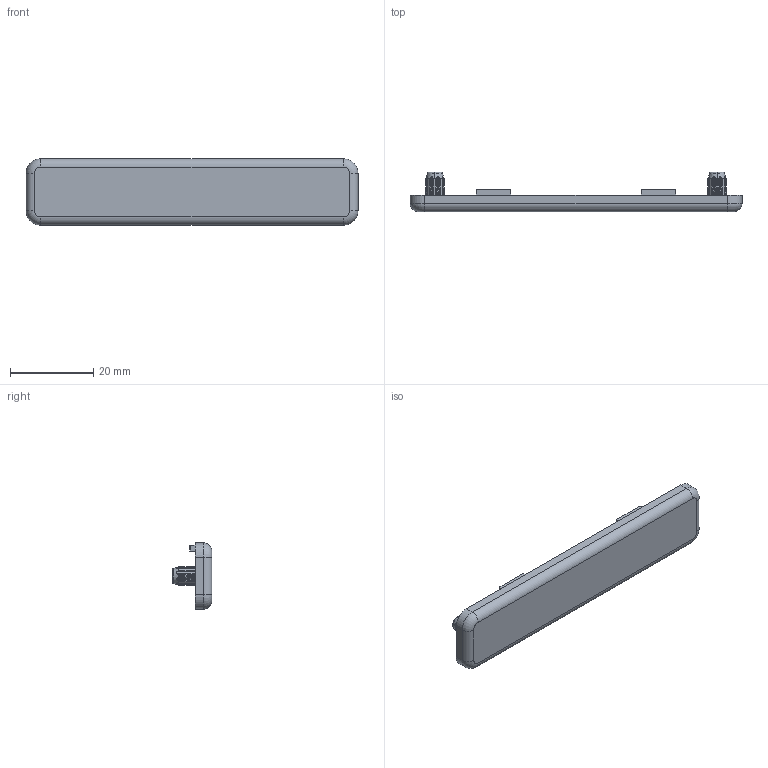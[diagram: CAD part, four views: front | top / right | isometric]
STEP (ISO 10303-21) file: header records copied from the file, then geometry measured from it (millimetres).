
FILE_DESCRIPTION (( 'STEP AP203' ), '1' );
FILE_NAME ('0108AK16080.STEP', '2024-03-07T13:22:44', ( 'Windows-Benutzer' ), ( '' ), 'SwSTEP 2.0', 'SolidWorks 2023', '' );
FILE_SCHEMA (( 'CONFIG_CONTROL_DESIGN' ));
Length unit declared in the file: millimetre
Products named in the file (1): 0108AK16080
Bounding box: 80 x 9.5 x 16 mm (x, y, z)
Volume: 3299 mm3; surface area: 3797.7 mm2
Topology: 1 solids, 1 shells, 175 faces, 484 edges, 316 vertices
Faces by surface type: cylinder 82, plane 55, bspline 22, cone 8, torus 8
Entity records: 6413 total; most frequent: CARTESIAN_POINT 2032, ORIENTED_EDGE 968, DIRECTION 842, EDGE_CURVE 484, AXIS2_PLACEMENT_3D 320, VERTEX_POINT 316, LINE 202, VECTOR 202
